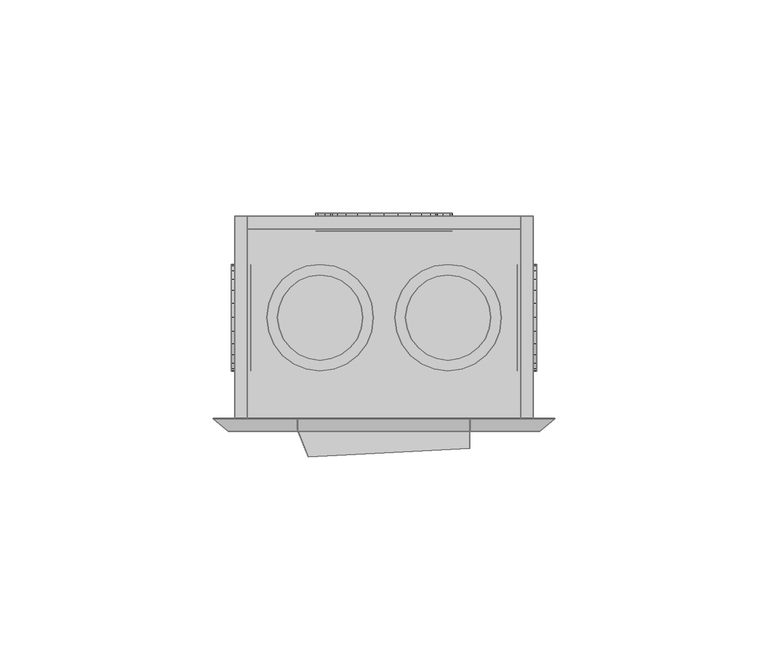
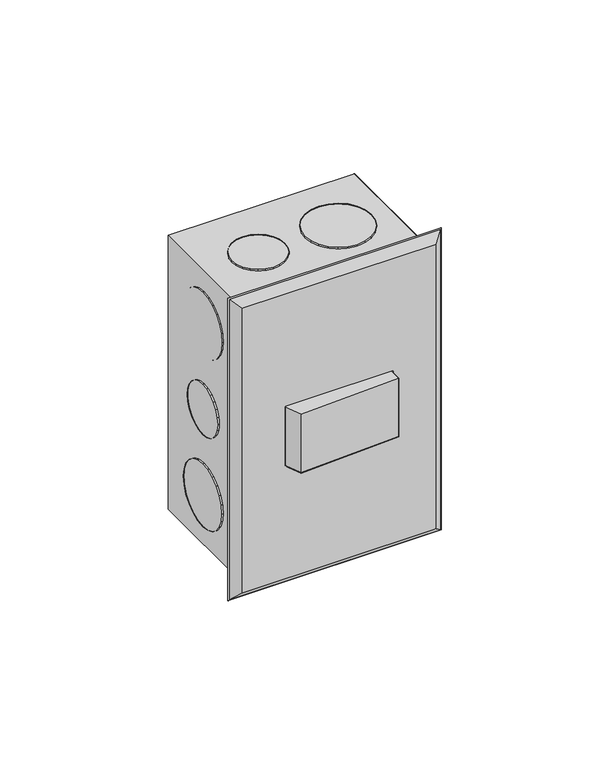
"""IFC4 building model written with IfcOpenShell, lengths in millimetres: proxy geometry,  210751 :  210751."""

from ifc_helpers import new_model, si_unit, origin, place, context, project, spatial, triangles, source, transform, mapped, element, save


def generic_models_49b2df1a(model_context):
    return source(origin(), model_context, "Body", "Tessellation", [
        triangles([(9911.6694214, 27548.6998535, 1254.3000378), (9908.6696045, 27548.6998535, 1148.7000154), (9911.6694214, 27548.6998535, 1145.6999805), (9908.6696045, 27548.6998535, 1251.2999302), (9841.6702057, 27548.6998535, 1254.3000378), (9844.6700226, 27548.6998535, 1251.2999302), (9841.6702057, 27548.6998535, 1145.6999805), (9844.6700226, 27548.6998535, 1148.7000154), (9908.6696045, 27596.1992798, 1251.2999302), (9908.6696045, 27596.1992798, 1148.7000154), (9841.6702057, 27596.1992798, 1254.3000378), (9841.6702057, 27596.1992798, 1145.6999805), (9844.6700226, 27596.1992798, 1251.2999302), (9911.6694214, 27596.1992798, 1145.6999805), (9844.6700226, 27596.1992798, 1148.7000154), (9911.6694214, 27596.1992798, 1254.3000378), (9908.6696045, 27593.1994629, 1251.2999302), (9844.6700226, 27593.1994629, 1148.7000154), (9908.6696045, 27593.1994629, 1148.7000154), (9844.6700226, 27593.1994629, 1251.2999302), (9890.5695465, 27592.6994934, 1191.9999887), (9884.6699066, 27592.6994934, 1186.0999855), (9887.9697052, 27592.6994934, 1188.6999722), (9892.1694489, 27592.6994934, 1195.8999687), (9880.8701385, 27592.6994934, 1184.5000105), (9892.6705811, 27592.6994934, 1200.0000092), (9876.6703949, 27592.6994934, 1183.9999683), (9892.1694489, 27592.6994934, 1204.0999769), (9872.5694824, 27592.6994934, 1184.5000105), (9890.5695465, 27592.6994934, 1208.0000296), (9868.6697205, 27592.6994934, 1186.0999855), (9887.9697052, 27592.6994934, 1211.2999735), (9865.3699219, 27592.6994934, 1188.6999722), (9884.6699066, 27592.6994934, 1213.9000328), (9862.8700745, 27592.6994934, 1191.9999887), (9880.8701385, 27592.6994934, 1215.5000078), (9861.2701721, 27592.6994934, 1195.8999687), (9876.6703949, 27592.6994934, 1215.9999773), (9860.6702087, 27592.6994934, 1200.0000092), (9872.5694824, 27592.6994934, 1215.5000078), (9861.2701721, 27592.6994934, 1204.0999769), (9868.6697205, 27592.6994934, 1213.9000328), (9862.8700745, 27592.6994934, 1208.0000296), (9865.3699219, 27592.6994934, 1211.2999735), (9872.5694824, 27596.8992371, 1184.5000105), (9876.6703949, 27596.8992371, 1183.9999683), (9880.8701385, 27596.8992371, 1184.5000105), (9884.6699066, 27596.8992371, 1186.0999855), (9887.9697052, 27596.8992371, 1188.6999722), (9890.5695465, 27596.8992371, 1191.9999887), (9892.1694489, 27596.8992371, 1195.8999687), (9892.6705811, 27596.8992371, 1200.0000092), (9892.1694489, 27596.8992371, 1204.0999769), (9890.5695465, 27596.8992371, 1208.0000296), (9887.9697052, 27596.8992371, 1211.2999735), (9884.6699066, 27596.8992371, 1213.9000328), (9880.8701385, 27596.8992371, 1215.5000078), (9876.6703949, 27596.8992371, 1215.9999773), (9872.5694824, 27596.8992371, 1215.5000078), (9868.6697205, 27596.8992371, 1213.9000328), (9865.3699219, 27596.8992371, 1211.2999735), (9862.8700745, 27596.8992371, 1208.0000296), (9861.2701721, 27596.8992371, 1204.0999769), (9860.6702087, 27596.8992371, 1200.0000092), (9861.2701721, 27596.8992371, 1195.8999687), (9862.8700745, 27596.8992371, 1191.9999887), (9865.3699219, 27596.8992371, 1188.6999722), (9868.6697205, 27596.8992371, 1186.0999855), (9887.5697296, 27592.6994934, 1227.8000565), (9882.9700104, 27592.6994934, 1223.2000465), (9885.5698517, 27592.6994934, 1225.2000698), (9888.7696564, 27592.6994934, 1230.8000187), (9879.9701935, 27592.6994934, 1221.8999805), (9889.169632, 27592.6994934, 1233.9999687), (9876.6703949, 27592.6994934, 1221.500005), (9888.7696564, 27592.6994934, 1237.2000641), (9873.4694275, 27592.6994934, 1221.8999805), (9887.5697296, 27592.6994934, 1240.3000202), (9870.4696106, 27592.6994934, 1223.2000465), (9885.5698517, 27592.6994934, 1242.800013), (9867.8697693, 27592.6994934, 1225.2000698), (9865.8698914, 27592.6994934, 1227.8000565), (9882.9700104, 27592.6994934, 1244.8000362), (9879.9701935, 27592.6994934, 1246.0999569), (9864.6699646, 27592.6994934, 1230.8000187), (9876.6703949, 27592.6994934, 1246.4999325), (9864.1699951, 27592.6994934, 1233.9999687), (9873.4694275, 27592.6994934, 1246.0999569), (9864.6699646, 27592.6994934, 1237.2000641), (9865.8698914, 27592.6994934, 1240.3000202), (9870.4696106, 27592.6994934, 1244.8000362), (9867.8697693, 27592.6994934, 1242.800013), (9864.6699646, 27596.8992371, 1230.8000187), (9865.8698914, 27596.8992371, 1227.8000565), (9867.8697693, 27596.8992371, 1225.2000698), (9870.4696106, 27596.8992371, 1223.2000465), (9873.4694275, 27596.8992371, 1221.8999805), (9876.6703949, 27596.8992371, 1221.500005), (9879.9701935, 27596.8992371, 1221.8999805), (9882.9700104, 27596.8992371, 1223.2000465), (9885.5698517, 27596.8992371, 1225.2000698), (9887.5697296, 27596.8992371, 1227.8000565), (9888.7696564, 27596.8992371, 1230.8000187), (9889.169632, 27596.8992371, 1233.9999687), (9888.7696564, 27596.8992371, 1237.2000641), (9887.5697296, 27596.8992371, 1240.3000202), (9885.5698517, 27596.8992371, 1242.800013), (9882.9700104, 27596.8992371, 1244.8000362), (9879.9701935, 27596.8992371, 1246.0999569), (9876.6703949, 27596.8992371, 1246.4999325), (9873.4694275, 27596.8992371, 1246.0999569), (9870.4696106, 27596.8992371, 1244.8000362), (9867.8697693, 27596.8992371, 1242.800013), (9865.8698914, 27596.8992371, 1240.3000202), (9864.6699646, 27596.8992371, 1237.2000641), (9864.1699951, 27596.8992371, 1233.9999687), (9882.9700104, 27596.8992371, 1155.1999821), (9887.5697296, 27596.8992371, 1159.6999981), (9885.5698517, 27596.8992371, 1157.2000053), (9879.9701935, 27596.8992371, 1153.8999887), (9888.7696564, 27596.8992371, 1162.8000269), (9876.6703949, 27596.8992371, 1153.5000132), (9889.169632, 27596.8992371, 1165.9999769), (9873.4694275, 27596.8992371, 1153.8999887), (9888.7696564, 27596.8992371, 1169.1999996), (9870.4696106, 27596.8992371, 1155.1999821), (9887.5697296, 27596.8992371, 1172.2000345), (9867.8697693, 27596.8992371, 1157.2000053), (9885.5698517, 27596.8992371, 1174.8000212), (9865.8698914, 27596.8992371, 1159.6999981), (9882.9700104, 27596.8992371, 1176.7999718), (9864.6699646, 27596.8992371, 1162.8000269), (9879.9701935, 27596.8992371, 1178.0999651), (9876.6703949, 27596.8992371, 1178.5000134), (9864.1699951, 27596.8992371, 1165.9999769), (9864.6699646, 27596.8992371, 1169.1999996), (9873.4694275, 27596.8992371, 1178.0999651), (9865.8698914, 27596.8992371, 1172.2000345), (9870.4696106, 27596.8992371, 1176.7999718), (9867.8697693, 27596.8992371, 1174.8000212), (9879.9701935, 27592.6994934, 1178.0999651), (9876.6703949, 27592.6994934, 1178.5000134), (9882.9700104, 27592.6994934, 1176.7999718), (9885.5698517, 27592.6994934, 1174.8000212), (9887.5697296, 27592.6994934, 1172.2000345), (9888.7696564, 27592.6994934, 1169.1999996), (9889.169632, 27592.6994934, 1165.9999769), (9888.7696564, 27592.6994934, 1162.8000269), (9887.5697296, 27592.6994934, 1159.6999981), (9885.5698517, 27592.6994934, 1157.2000053), (9882.9700104, 27592.6994934, 1155.1999821), (9879.9701935, 27592.6994934, 1153.8999887), (9876.6703949, 27592.6994934, 1153.5000132), (9873.4694275, 27592.6994934, 1153.8999887), (9870.4696106, 27592.6994934, 1155.1999821), (9867.8697693, 27592.6994934, 1157.2000053), (9865.8698914, 27592.6994934, 1159.6999981), (9864.6699646, 27592.6994934, 1162.8000269), (9864.1699951, 27592.6994934, 1165.9999769), (9864.6699646, 27592.6994934, 1169.1999996), (9865.8698914, 27592.6994934, 1172.2000345), (9867.8697693, 27592.6994934, 1174.8000212), (9870.4696106, 27592.6994934, 1176.7999718), (9873.4694275, 27592.6994934, 1178.0999651), (9907.8696533, 27577.4004272, 1191.3000315), (9907.8696533, 27581.1002014, 1195.0000237), (9907.8696533, 27579.5002991, 1192.9000065), (9907.8696533, 27582.1001404, 1197.4000225), (9907.8696533, 27575.0005737, 1190.3000198), (9907.8696533, 27582.4001221, 1200.0000092), (9907.8696533, 27572.4007324, 1189.9999655), (9907.8696533, 27569.900885, 1190.3000198), (9907.8696533, 27582.1001404, 1202.5999958), (9907.8696533, 27581.1002014, 1204.9999947), (9907.8696533, 27567.4010376, 1191.3000315), (9907.8696533, 27579.5002991, 1207.1000118), (9907.8696533, 27565.4011597, 1192.9000065), (9907.8696533, 27563.7989319, 1195.0000237), (9907.8696533, 27577.4004272, 1208.6999868), (9907.8696533, 27562.7989929, 1197.4000225), (9907.8696533, 27575.0005737, 1209.6999985), (9907.8696533, 27562.3990173, 1200.0000092), (9907.8696533, 27572.4007324, 1209.9999802), (9907.8696533, 27562.7989929, 1202.5999958), (9907.8696533, 27569.900885, 1209.6999985), (9907.8696533, 27567.4010376, 1208.6999868), (9907.8696533, 27563.7989319, 1204.9999947), (9907.8696533, 27565.4011597, 1207.1000118), (9912.4705353, 27572.4007324, 1189.9999655), (9912.4705353, 27575.0005737, 1190.3000198), (9912.4705353, 27569.900885, 1190.3000198), (9912.4705353, 27567.4010376, 1191.3000315), (9912.4705353, 27565.4011597, 1192.9000065), (9912.4705353, 27563.7989319, 1195.0000237), (9912.4705353, 27562.7989929, 1197.4000225), (9912.4705353, 27562.3990173, 1200.0000092), (9912.4705353, 27562.7989929, 1202.5999958), (9912.4705353, 27563.7989319, 1204.9999947), (9912.4705353, 27565.4011597, 1207.1000118), (9912.4705353, 27567.4010376, 1208.6999868), (9912.4705353, 27569.900885, 1209.6999985), (9912.4705353, 27572.4007324, 1209.9999802), (9912.4705353, 27575.0005737, 1209.6999985), (9912.4705353, 27577.4004272, 1208.6999868), (9912.4705353, 27579.5002991, 1207.1000118), (9912.4705353, 27581.1002014, 1204.9999947), (9912.4705353, 27582.1001404, 1202.5999958), (9912.4705353, 27582.4001221, 1200.0000092), (9912.4705353, 27582.1001404, 1197.4000225), (9912.4705353, 27581.1002014, 1195.0000237), (9912.4705353, 27579.5002991, 1192.9000065), (9912.4705353, 27577.4004272, 1191.3000315), (9907.8696533, 27578.7003479, 1223.2000465), (9907.8696533, 27583.3000671, 1227.8000565), (9907.8696533, 27581.3001892, 1225.2000698), (9907.8696533, 27575.700531, 1221.8999805), (9907.8696533, 27584.4999939, 1230.8000187), (9907.8696533, 27584.8999695, 1233.9999687), (9907.8696533, 27572.4007324, 1221.500005), (9907.8696533, 27569.2009277, 1221.8999805), (9907.8696533, 27584.4999939, 1237.2000641), (9907.8696533, 27583.3000671, 1240.3000202), (9907.8696533, 27566.2011108, 1223.2000465), (9907.8696533, 27563.5989441, 1225.2000698), (9907.8696533, 27581.3001892, 1242.800013), (9907.8696533, 27561.5990662, 1227.8000565), (9907.8696533, 27578.7003479, 1244.8000362), (9907.8696533, 27560.3991394, 1230.8000187), (9907.8696533, 27575.700531, 1246.0999569), (9907.8696533, 27559.8991699, 1233.9999687), (9907.8696533, 27572.4007324, 1246.4999325), (9907.8696533, 27560.3991394, 1237.2000641), (9907.8696533, 27569.2009277, 1246.0999569), (9907.8696533, 27561.5990662, 1240.3000202), (9907.8696533, 27566.2011108, 1244.8000362), (9907.8696533, 27563.5989441, 1242.800013), (9912.4705353, 27572.4007324, 1221.500005), (9912.4705353, 27575.700531, 1221.8999805), (9912.4705353, 27569.2009277, 1221.8999805), (9912.4705353, 27566.2011108, 1223.2000465), (9912.4705353, 27563.5989441, 1225.2000698), (9912.4705353, 27561.5990662, 1227.8000565), (9912.4705353, 27560.3991394, 1230.8000187), (9912.4705353, 27559.8991699, 1233.9999687), (9912.4705353, 27560.3991394, 1237.2000641), (9912.4705353, 27561.5990662, 1240.3000202), (9912.4705353, 27563.5989441, 1242.800013), (9912.4705353, 27566.2011108, 1244.8000362), (9912.4705353, 27569.2009277, 1246.0999569), (9912.4705353, 27572.4007324, 1246.4999325), (9912.4705353, 27575.700531, 1246.0999569), (9912.4705353, 27578.7003479, 1244.8000362), (9912.4705353, 27581.3001892, 1242.800013), (9912.4705353, 27583.3000671, 1240.3000202), (9912.4705353, 27584.4999939, 1237.2000641), (9912.4705353, 27584.8999695, 1233.9999687), (9912.4705353, 27584.4999939, 1230.8000187), (9912.4705353, 27583.3000671, 1227.8000565), (9912.4705353, 27581.3001892, 1225.2000698), (9912.4705353, 27578.7003479, 1223.2000465), (9912.4705353, 27583.3000671, 1159.6999981), (9912.4705353, 27578.7003479, 1155.1999821), (9912.4705353, 27581.3001892, 1157.2000053), (9912.4705353, 27584.4999939, 1162.8000269), (9912.4705353, 27575.700531, 1153.8999887), (9912.4705353, 27584.8999695, 1165.9999769), (9912.4705353, 27572.4007324, 1153.5000132), (9912.4705353, 27584.4999939, 1169.1999996), (9912.4705353, 27569.2009277, 1153.8999887), (9912.4705353, 27583.3000671, 1172.2000345), (9912.4705353, 27566.2011108, 1155.1999821), (9912.4705353, 27581.3001892, 1174.8000212), (9912.4705353, 27563.5989441, 1157.2000053), (9912.4705353, 27578.7003479, 1176.7999718), (9912.4705353, 27561.5990662, 1159.6999981), (9912.4705353, 27575.700531, 1178.0999651), (9912.4705353, 27560.3991394, 1162.8000269), (9912.4705353, 27572.4007324, 1178.5000134), (9912.4705353, 27559.8991699, 1165.9999769), (9912.4705353, 27569.2009277, 1178.0999651), (9912.4705353, 27560.3991394, 1169.1999996), (9912.4705353, 27566.2011108, 1176.7999718), (9912.4705353, 27561.5990662, 1172.2000345), (9912.4705353, 27563.5989441, 1174.8000212), (9907.8696533, 27575.700531, 1178.0999651), (9907.8696533, 27572.4007324, 1178.5000134), (9907.8696533, 27569.2009277, 1178.0999651), (9907.8696533, 27566.2011108, 1176.7999718), (9907.8696533, 27563.5989441, 1174.8000212), (9907.8696533, 27561.5990662, 1172.2000345), (9907.8696533, 27560.3991394, 1169.1999996), (9907.8696533, 27559.8991699, 1165.9999769), (9907.8696533, 27560.3991394, 1162.8000269), (9907.8696533, 27561.5990662, 1159.6999981), (9907.8696533, 27563.5989441, 1157.2000053), (9907.8696533, 27566.2011108, 1155.1999821), (9907.8696533, 27569.2009277, 1153.8999887), (9907.8696533, 27572.4007324, 1153.5000132), (9907.8696533, 27575.700531, 1153.8999887), (9907.8696533, 27578.7003479, 1155.1999821), (9907.8696533, 27581.3001892, 1157.2000053), (9907.8696533, 27583.3000671, 1159.6999981), (9907.8696533, 27584.4999939, 1162.8000269), (9907.8696533, 27584.8999695, 1165.9999769), (9907.8696533, 27584.4999939, 1169.1999996), (9907.8696533, 27583.3000671, 1172.2000345), (9907.8696533, 27581.3001892, 1174.8000212), (9907.8696533, 27578.7003479, 1176.7999718), (9845.4699738, 27581.1002014, 1195.0000237), (9845.4699738, 27577.4004272, 1191.3000315), (9845.4699738, 27579.5002991, 1192.9000065), (9845.4699738, 27582.1001404, 1197.4000225), (9845.4699738, 27575.0005737, 1190.3000198), (9845.4699738, 27582.4001221, 1200.0000092), (9845.4699738, 27572.4007324, 1189.9999655), (9845.4699738, 27582.1001404, 1202.5999958), (9845.4699738, 27569.900885, 1190.3000198), (9845.4699738, 27581.1002014, 1204.9999947), (9845.4699738, 27567.4010376, 1191.3000315), (9845.4699738, 27579.5002991, 1207.1000118), (9845.4699738, 27565.4011597, 1192.9000065), (9845.4699738, 27577.4004272, 1208.6999868), (9845.4699738, 27563.7989319, 1195.0000237), (9845.4699738, 27575.0005737, 1209.6999985), (9845.4699738, 27562.7989929, 1197.4000225), (9845.4699738, 27562.3990173, 1200.0000092), (9845.4699738, 27572.4007324, 1209.9999802), (9845.4699738, 27569.900885, 1209.6999985), (9845.4699738, 27562.7989929, 1202.5999958), (9845.4699738, 27567.4010376, 1208.6999868), (9845.4699738, 27563.7989319, 1204.9999947), (9845.4699738, 27565.4011597, 1207.1000118), (9840.8702545, 27575.0005737, 1209.6999985), (9840.8702545, 27572.4007324, 1209.9999802), (9840.8702545, 27569.900885, 1209.6999985), (9840.8702545, 27567.4010376, 1208.6999868), (9840.8702545, 27565.4011597, 1207.1000118), (9840.8702545, 27563.7989319, 1204.9999947), (9840.8702545, 27562.7989929, 1202.5999958), (9840.8702545, 27562.3990173, 1200.0000092), (9840.8702545, 27562.7989929, 1197.4000225), (9840.8702545, 27563.7989319, 1195.0000237), (9840.8702545, 27565.4011597, 1192.9000065), (9840.8702545, 27567.4010376, 1191.3000315), (9840.8702545, 27569.900885, 1190.3000198), (9840.8702545, 27572.4007324, 1189.9999655), (9840.8702545, 27575.0005737, 1190.3000198), (9840.8702545, 27577.4004272, 1191.3000315), (9840.8702545, 27579.5002991, 1192.9000065), (9840.8702545, 27581.1002014, 1195.0000237), (9840.8702545, 27582.1001404, 1197.4000225), (9840.8702545, 27582.4001221, 1200.0000092), (9840.8702545, 27582.1001404, 1202.5999958), (9840.8702545, 27581.1002014, 1204.9999947), (9840.8702545, 27579.5002991, 1207.1000118), (9840.8702545, 27577.4004272, 1208.6999868), (9845.4699738, 27583.3000671, 1159.6999981), (9845.4699738, 27578.7003479, 1155.1999821), (9845.4699738, 27581.3001892, 1157.2000053), (9845.4699738, 27584.4999939, 1162.8000269), (9845.4699738, 27575.700531, 1153.8999887), (9845.4699738, 27584.8999695, 1165.9999769), (9845.4699738, 27572.4007324, 1153.5000132), (9845.4699738, 27584.4999939, 1169.1999996), (9845.4699738, 27569.2009277, 1153.8999887), (9845.4699738, 27583.3000671, 1172.2000345), (9845.4699738, 27566.2011108, 1155.1999821), (9845.4699738, 27581.3001892, 1174.8000212), (9845.4699738, 27563.5989441, 1157.2000053), (9845.4699738, 27578.7003479, 1176.7999718), (9845.4699738, 27561.5990662, 1159.6999981), (9845.4699738, 27575.700531, 1178.0999651), (9845.4699738, 27560.3991394, 1162.8000269), (9845.4699738, 27572.4007324, 1178.5000134), (9845.4699738, 27559.8991699, 1165.9999769), (9845.4699738, 27569.2009277, 1178.0999651), (9845.4699738, 27560.3991394, 1169.1999996), (9845.4699738, 27566.2011108, 1176.7999718), (9845.4699738, 27561.5990662, 1172.2000345), (9845.4699738, 27563.5989441, 1174.8000212), (9840.8702545, 27575.700531, 1178.0999651), (9840.8702545, 27572.4007324, 1178.5000134), (9840.8702545, 27569.2009277, 1178.0999651), (9840.8702545, 27566.2011108, 1176.7999718), (9840.8702545, 27563.5989441, 1174.8000212), (9840.8702545, 27561.5990662, 1172.2000345), (9840.8702545, 27560.3991394, 1169.1999996), (9840.8702545, 27559.8991699, 1165.9999769), (9840.8702545, 27560.3991394, 1162.8000269), (9840.8702545, 27561.5990662, 1159.6999981), (9840.8702545, 27563.5989441, 1157.2000053), (9840.8702545, 27566.2011108, 1155.1999821), (9840.8702545, 27569.2009277, 1153.8999887), (9840.8702545, 27572.4007324, 1153.5000132), (9840.8702545, 27575.700531, 1153.8999887), (9840.8702545, 27578.7003479, 1155.1999821), (9840.8702545, 27581.3001892, 1157.2000053), (9840.8702545, 27583.3000671, 1159.6999981), (9840.8702545, 27584.4999939, 1162.8000269), (9840.8702545, 27584.8999695, 1165.9999769), (9840.8702545, 27584.4999939, 1169.1999996), (9840.8702545, 27583.3000671, 1172.2000345), (9840.8702545, 27581.3001892, 1174.8000212), (9840.8702545, 27578.7003479, 1176.7999718), (9840.8702545, 27578.7003479, 1223.2000465), (9840.8702545, 27583.3000671, 1227.8000565), (9840.8702545, 27581.3001892, 1225.2000698), (9840.8702545, 27575.700531, 1221.8999805), (9840.8702545, 27584.4999939, 1230.8000187), (9840.8702545, 27584.8999695, 1233.9999687), (9840.8702545, 27572.4007324, 1221.500005), (9840.8702545, 27569.2009277, 1221.8999805), (9840.8702545, 27584.4999939, 1237.2000641), (9840.8702545, 27583.3000671, 1240.3000202), (9840.8702545, 27566.2011108, 1223.2000465), (9840.8702545, 27563.5989441, 1225.2000698), (9840.8702545, 27581.3001892, 1242.800013), (9840.8702545, 27561.5990662, 1227.8000565), (9840.8702545, 27578.7003479, 1244.8000362), (9840.8702545, 27560.3991394, 1230.8000187), (9840.8702545, 27575.700531, 1246.0999569), (9840.8702545, 27559.8991699, 1233.9999687), (9840.8702545, 27572.4007324, 1246.4999325), (9840.8702545, 27560.3991394, 1237.2000641), (9840.8702545, 27569.2009277, 1246.0999569), (9840.8702545, 27561.5990662, 1240.3000202), (9840.8702545, 27566.2011108, 1244.8000362), (9840.8702545, 27563.5989441, 1242.800013), (9845.4699738, 27572.4007324, 1221.500005), (9845.4699738, 27575.700531, 1221.8999805), (9845.4699738, 27569.2009277, 1221.8999805), (9845.4699738, 27566.2011108, 1223.2000465), (9845.4699738, 27563.5989441, 1225.2000698), (9845.4699738, 27561.5990662, 1227.8000565), (9845.4699738, 27560.3991394, 1230.8000187), (9845.4699738, 27559.8991699, 1233.9999687), (9845.4699738, 27560.3991394, 1237.2000641), (9845.4699738, 27561.5990662, 1240.3000202), (9845.4699738, 27563.5989441, 1242.800013), (9845.4699738, 27566.2011108, 1244.8000362), (9845.4699738, 27569.2009277, 1246.0999569), (9845.4699738, 27572.4007324, 1246.4999325), (9845.4699738, 27575.700531, 1246.0999569), (9845.4699738, 27578.7003479, 1244.8000362), (9845.4699738, 27581.3001892, 1242.800013), (9845.4699738, 27583.3000671, 1240.3000202), (9845.4699738, 27584.4999939, 1237.2000641), (9845.4699738, 27584.8999695, 1233.9999687), (9845.4699738, 27584.4999939, 1230.8000187), (9845.4699738, 27583.3000671, 1227.8000565), (9845.4699738, 27581.3001892, 1225.2000698), (9845.4699738, 27578.7003479, 1223.2000465), (9902.5699768, 27578.7003479, 1250.9999485), (9897.9702576, 27583.3000671, 1250.9999485), (9900.5700989, 27581.3001892, 1250.9999485), (9903.7699036, 27575.700531, 1250.9999485), (9894.9704407, 27584.4999939, 1250.9999485), (9891.6694794, 27584.8999695, 1250.9999485), (9904.1698792, 27572.4007324, 1250.9999485), (9903.7699036, 27569.2009277, 1250.9999485), (9888.4696747, 27584.4999939, 1250.9999485), (9885.4698578, 27583.3000671, 1250.9999485), (9902.5699768, 27566.2011108, 1250.9999485), (9900.5700989, 27563.5989441, 1250.9999485), (9882.8700165, 27581.3001892, 1250.9999485), (9880.8701385, 27578.7003479, 1250.9999485), (9897.9702576, 27561.5990662, 1250.9999485), (9894.9704407, 27560.3991394, 1250.9999485), (9879.6702118, 27575.700531, 1250.9999485), (9891.6694794, 27559.8991699, 1250.9999485), (9879.1702423, 27572.4007324, 1250.9999485), (9888.4696747, 27560.3991394, 1250.9999485), (9879.6702118, 27569.2009277, 1250.9999485), (9880.8701385, 27566.2011108, 1250.9999485), (9885.4698578, 27561.5990662, 1250.9999485), (9882.8700165, 27563.5989441, 1250.9999485), (9891.6694794, 27584.8999695, 1255.1999828), (9888.4696747, 27584.4999939, 1255.1999828), (9894.9704407, 27584.4999939, 1255.1999828), (9897.9702576, 27583.3000671, 1255.1999828), (9900.5700989, 27581.3001892, 1255.1999828), (9902.5699768, 27578.7003479, 1255.1999828), (9903.7699036, 27575.700531, 1255.1999828), (9904.1698792, 27572.4007324, 1255.1999828), (9903.7699036, 27569.2009277, 1255.1999828), (9902.5699768, 27566.2011108, 1255.1999828), (9900.5700989, 27563.5989441, 1255.1999828), (9897.9702576, 27561.5990662, 1255.1999828), (9894.9704407, 27560.3991394, 1255.1999828), (9891.6694794, 27559.8991699, 1255.1999828), (9888.4696747, 27560.3991394, 1255.1999828), (9885.4698578, 27561.5990662, 1255.1999828), (9882.8700165, 27563.5989441, 1255.1999828), (9880.8701385, 27566.2011108, 1255.1999828), (9879.6702118, 27569.2009277, 1255.1999828), (9879.1702423, 27572.4007324, 1255.1999828), (9879.6702118, 27575.700531, 1255.1999828), (9880.8701385, 27578.7003479, 1255.1999828), (9882.8700165, 27581.3001892, 1255.1999828), (9885.4698578, 27583.3000671, 1255.1999828), (9870.3696167, 27577.4004272, 1250.9999485), (9866.6698425, 27581.1002014, 1250.9999485), (9868.7697144, 27579.5002991, 1250.9999485), (9864.269989, 27582.1001404, 1250.9999485), (9871.3695557, 27575.0005737, 1250.9999485), (9861.6701477, 27582.4001221, 1250.9999485), (9871.6695374, 27572.4007324, 1250.9999485), (9871.3695557, 27569.900885, 1250.9999485), (9859.0703064, 27582.1001404, 1250.9999485), (9856.6704529, 27581.1002014, 1250.9999485), (9870.3696167, 27567.4010376, 1250.9999485), (9854.670575, 27579.5002991, 1250.9999485), (9868.7697144, 27565.4011597, 1250.9999485), (9866.6698425, 27563.7989319, 1250.9999485), (9853.0695099, 27577.4004272, 1250.9999485), (9852.0695709, 27575.0005737, 1250.9999485), (9864.269989, 27562.7989929, 1250.9999485), (9861.6701477, 27562.3990173, 1250.9999485), (9851.6695953, 27572.4007324, 1250.9999485), (9859.0703064, 27562.7989929, 1250.9999485), (9852.0695709, 27569.900885, 1250.9999485), (9856.6704529, 27563.7989319, 1250.9999485), (9853.0695099, 27567.4010376, 1250.9999485), (9854.670575, 27565.4011597, 1250.9999485), (9859.0703064, 27582.1001404, 1255.1999828), (9856.6704529, 27581.1002014, 1255.1999828), (9861.6701477, 27582.4001221, 1255.1999828), (9864.269989, 27582.1001404, 1255.1999828), (9866.6698425, 27581.1002014, 1255.1999828), (9868.7697144, 27579.5002991, 1255.1999828), (9870.3696167, 27577.4004272, 1255.1999828), (9871.3695557, 27575.0005737, 1255.1999828), (9871.6695374, 27572.4007324, 1255.1999828), (9871.3695557, 27569.900885, 1255.1999828), (9870.3696167, 27567.4010376, 1255.1999828), (9868.7697144, 27565.4011597, 1255.1999828), (9866.6698425, 27563.7989319, 1255.1999828), (9864.269989, 27562.7989929, 1255.1999828), (9861.6701477, 27562.3990173, 1255.1999828), (9859.0703064, 27562.7989929, 1255.1999828), (9856.6704529, 27563.7989319, 1255.1999828), (9854.670575, 27565.4011597, 1255.1999828), (9853.0695099, 27567.4010376, 1255.1999828), (9852.0695709, 27569.900885, 1255.1999828), (9851.6695953, 27572.4007324, 1255.1999828), (9852.0695709, 27575.0005737, 1255.1999828), (9853.0695099, 27577.4004272, 1255.1999828), (9854.670575, 27579.5002991, 1255.1999828), (9900.3701111, 27577.4004272, 1144.8000355), (9896.6703369, 27581.1002014, 1144.8000355), (9898.7702087, 27579.5002991, 1144.8000355), (9894.2704834, 27582.1001404, 1144.8000355), (9901.37005, 27575.0005737, 1144.8000355), (9891.6694794, 27582.4001221, 1144.8000355), (9901.6700317, 27572.4007324, 1144.8000355), (9901.37005, 27569.900885, 1144.8000355), (9889.0696381, 27582.1001404, 1144.8000355), (9886.6697845, 27581.1002014, 1144.8000355), (9900.3701111, 27567.4010376, 1144.8000355), (9884.6699066, 27579.5002991, 1144.8000355), (9898.7702087, 27565.4011597, 1144.8000355), (9896.6703369, 27563.7989319, 1144.8000355), (9883.0700043, 27577.4004272, 1144.8000355), (9882.0700653, 27575.0005737, 1144.8000355), (9894.2704834, 27562.7989929, 1144.8000355), (9891.6694794, 27562.3990173, 1144.8000355), (9881.6700897, 27572.4007324, 1144.8000355), (9889.0696381, 27562.7989929, 1144.8000355), (9882.0700653, 27569.900885, 1144.8000355), (9886.6697845, 27563.7989319, 1144.8000355), (9883.0700043, 27567.4010376, 1144.8000355), (9884.6699066, 27565.4011597, 1144.8000355), (9894.2704834, 27582.1001404, 1149.099991), (9891.6694794, 27582.4001221, 1149.099991), (9896.6703369, 27581.1002014, 1149.099991), (9898.7702087, 27579.5002991, 1149.099991), (9900.3701111, 27577.4004272, 1149.099991), (9901.37005, 27575.0005737, 1149.099991), (9901.6700317, 27572.4007324, 1149.099991), (9901.37005, 27569.900885, 1149.099991), (9900.3701111, 27567.4010376, 1149.099991), (9898.7702087, 27565.4011597, 1149.099991), (9896.6703369, 27563.7989319, 1149.099991), (9894.2704834, 27562.7989929, 1149.099991), (9891.6694794, 27562.3990173, 1149.099991), (9889.0696381, 27562.7989929, 1149.099991), (9886.6697845, 27563.7989319, 1149.099991), (9884.6699066, 27565.4011597, 1149.099991), (9883.0700043, 27567.4010376, 1149.099991), (9882.0700653, 27569.900885, 1149.099991), (9881.6700897, 27572.4007324, 1149.099991), (9882.0700653, 27575.0005737, 1149.099991), (9883.0700043, 27577.4004272, 1149.099991), (9884.6699066, 27579.5002991, 1149.099991), (9886.6697845, 27581.1002014, 1149.099991), (9889.0696381, 27582.1001404, 1149.099991), (9872.5694824, 27578.7003479, 1144.8000355), (9867.9697632, 27583.3000671, 1144.8000355), (9870.5696045, 27581.3001892, 1144.8000355), (9873.7705719, 27575.700531, 1144.8000355), (9864.9699463, 27584.4999939, 1144.8000355), (9861.6701477, 27584.8999695, 1144.8000355), (9874.1705475, 27572.4007324, 1144.8000355), (9873.7705719, 27569.2009277, 1144.8000355), (9858.470343, 27584.4999939, 1144.8000355), (9855.4705261, 27583.3000671, 1144.8000355), (9872.5694824, 27566.2011108, 1144.8000355), (9870.5696045, 27563.5989441, 1144.8000355), (9852.8695221, 27581.3001892, 1144.8000355), (9850.8696442, 27578.7003479, 1144.8000355), (9867.9697632, 27561.5990662, 1144.8000355), (9864.9699463, 27560.3991394, 1144.8000355), (9849.6697174, 27575.700531, 1144.8000355), (9861.6701477, 27559.8991699, 1144.8000355), (9849.1697479, 27572.4007324, 1144.8000355), (9858.470343, 27560.3991394, 1144.8000355), (9849.6697174, 27569.2009277, 1144.8000355), (9850.8696442, 27566.2011108, 1144.8000355), (9855.4705261, 27561.5990662, 1144.8000355), (9852.8695221, 27563.5989441, 1144.8000355), (9858.470343, 27584.4999939, 1149.099991), (9855.4705261, 27583.3000671, 1149.099991), (9861.6701477, 27584.8999695, 1149.099991), (9864.9699463, 27584.4999939, 1149.099991), (9867.9697632, 27583.3000671, 1149.099991), (9870.5696045, 27581.3001892, 1149.099991), (9872.5694824, 27578.7003479, 1149.099991), (9873.7705719, 27575.700531, 1149.099991), (9874.1705475, 27572.4007324, 1149.099991), (9873.7705719, 27569.2009277, 1149.099991), (9872.5694824, 27566.2011108, 1149.099991), (9870.5696045, 27563.5989441, 1149.099991), (9867.9697632, 27561.5990662, 1149.099991), (9864.9699463, 27560.3991394, 1149.099991), (9861.6701477, 27559.8991699, 1149.099991), (9858.470343, 27560.3991394, 1149.099991), (9855.4705261, 27561.5990662, 1149.099991), (9852.8695221, 27563.5989441, 1149.099991), (9850.8696442, 27566.2011108, 1149.099991), (9849.6697174, 27569.2009277, 1149.099991), (9849.1697479, 27572.4007324, 1149.099991), (9849.6697174, 27575.700531, 1149.099991), (9850.8696442, 27578.7003479, 1149.099991), (9852.8695221, 27581.3001892, 1149.099991), (9836.6705109, 27548.6998535, 1139.9999651), (9896.8703247, 27548.6998535, 1188.2999966), (9916.6702789, 27548.6998535, 1139.9999651), (9856.4704651, 27548.6998535, 1188.2999966), (9836.6705109, 27548.6998535, 1259.9999805), (9856.4704651, 27548.6998535, 1211.7000217), (9916.6702789, 27548.6998535, 1259.9999805), (9896.8703247, 27548.6998535, 1211.7000217), (9856.4704651, 27545.7000366, 1188.2999966), (9856.4704651, 27545.7000366, 1211.7000217), (9896.8703247, 27545.7000366, 1188.2999966), (9896.8703247, 27545.7000366, 1211.7000217), (9913.1704926, 27545.7000366, 1143.4999695), (9913.1704926, 27545.7000366, 1256.5000488), (9840.1702972, 27545.7000366, 1143.4999695), (9840.1702972, 27545.7000366, 1256.5000488), (9896.7703308, 27541.7002808, 1188.1000088), (9856.3704712, 27548.6998535, 1188.1000088), (9896.7703308, 27548.6998535, 1188.1000088), (9858.9703125, 27539.8003967, 1188.1000088), (9856.3704712, 27546.2000061, 1188.1000088), (9896.7703308, 27548.6998535, 1211.500034), (9856.3704712, 27548.6998535, 1211.500034), (9896.7703308, 27541.7002808, 1211.500034), (9858.9703125, 27539.8003967, 1211.500034), (9856.3704712, 27546.2000061, 1211.500034)], [[1, 2, 3], [2, 1, 4], [5, 4, 1], [4, 5, 6], [3, 2, 7], [7, 2, 8], [7, 8, 6], [7, 6, 5], [2, 9, 10], [9, 2, 4], [7, 11, 12], [11, 7, 5], [4, 13, 9], [13, 4, 6], [3, 12, 14], [12, 3, 7], [13, 8, 15], [8, 13, 6], [16, 3, 14], [3, 16, 1], [15, 2, 10], [2, 15, 8], [11, 1, 16], [1, 11, 5], [12, 10, 14], [10, 12, 15], [11, 15, 12], [15, 11, 13], [14, 10, 16], [16, 10, 9], [16, 9, 13], [16, 13, 11], [17, 18, 19], [18, 17, 20], [18, 13, 15], [13, 18, 20], [19, 15, 10], [15, 19, 18], [9, 19, 10], [19, 9, 17], [13, 17, 9], [17, 13, 20], [15, 9, 10], [9, 15, 13], [21, 22, 23], [22, 21, 24], [25, 22, 24], [25, 24, 26], [27, 25, 26], [27, 26, 28], [29, 27, 28], [29, 28, 30], [31, 29, 30], [31, 30, 32], [31, 32, 33], [33, 32, 34], [33, 34, 35], [35, 34, 36], [35, 36, 37], [37, 36, 38], [37, 38, 39], [39, 38, 40], [39, 40, 41], [41, 40, 42], [41, 42, 43], [43, 42, 44], [27, 45, 46], [45, 27, 29], [25, 46, 47], [46, 25, 27], [22, 47, 48], [47, 22, 25], [23, 48, 49], [48, 23, 22], [50, 23, 49], [23, 50, 21], [51, 21, 50], [21, 51, 24], [52, 24, 51], [24, 52, 26], [53, 26, 52], [26, 53, 28], [54, 28, 53], [28, 54, 30], [55, 30, 54], [30, 55, 32], [56, 32, 55], [32, 56, 34], [57, 34, 56], [34, 57, 36], [58, 36, 57], [36, 58, 38], [59, 38, 58], [38, 59, 40], [60, 40, 59], [40, 60, 42], [61, 42, 60], [42, 61, 44], [43, 61, 62], [61, 43, 44], [41, 62, 63], [62, 41, 43], [39, 63, 64], [63, 39, 41], [37, 64, 65], [64, 37, 39], [35, 65, 66], [65, 35, 37], [33, 66, 67], [66, 33, 35], [31, 67, 68], [67, 31, 33], [29, 68, 45], [68, 29, 31], [48, 50, 49], [50, 48, 47], [51, 50, 47], [51, 47, 46], [52, 51, 46], [52, 46, 45], [53, 52, 45], [53, 45, 68], [54, 53, 68], [54, 68, 67], [54, 67, 55], [55, 67, 66], [55, 66, 56], [56, 66, 65], [56, 65, 57], [57, 65, 64], [57, 64, 58], [58, 64, 63], [58, 63, 59], [59, 63, 62], [59, 62, 60], [60, 62, 61], [69, 70, 71], [70, 69, 72], [73, 70, 72], [73, 72, 74], [75, 73, 74], [75, 74, 76], [77, 75, 76], [77, 76, 78], [79, 77, 78], [79, 78, 80], [81, 79, 80], [81, 80, 82], [82, 80, 83], [82, 83, 84], [82, 84, 85], [85, 84, 86], [85, 86, 87], [87, 86, 88], [87, 88, 89], [89, 88, 90], [90, 88, 91], [90, 91, 92], [82, 93, 94], [93, 82, 85], [81, 94, 95], [94, 81, 82], [79, 95, 96], [95, 79, 81], [77, 96, 97], [96, 77, 79], [75, 97, 98], [97, 75, 77], [73, 98, 99], [98, 73, 75], [70, 99, 100], [99, 70, 73], [71, 100, 101], [100, 71, 70], [102, 71, 101], [71, 102, 69], [103, 69, 102], [69, 103, 72], [104, 72, 103], [72, 104, 74], [105, 74, 104], [74, 105, 76], [106, 76, 105], [76, 106, 78], [107, 78, 106], [78, 107, 80], [108, 80, 107], [80, 108, 83], [109, 83, 108], [83, 109, 84], [110, 84, 109], [84, 110, 86], [111, 86, 110], [86, 111, 88], [112, 88, 111], [88, 112, 91], [113, 91, 112], [91, 113, 92], [90, 113, 114], [113, 90, 92], [89, 114, 115], [114, 89, 90], [87, 115, 116], [115, 87, 89], [85, 116, 93], [116, 85, 87], [100, 102, 101], [102, 100, 99], [103, 102, 99], [103, 99, 98], [104, 103, 98], [104, 98, 97], [105, 104, 97], [106, 105, 97], [106, 97, 96], [106, 96, 95], [106, 95, 107], [107, 95, 94], [107, 94, 108], [108, 94, 93], [108, 93, 109], [109, 93, 116], [109, 116, 110], [110, 116, 115], [110, 115, 111], [111, 115, 114], [111, 114, 112], [112, 114, 113], [117, 118, 119], [118, 117, 120], [121, 118, 120], [121, 120, 122], [123, 121, 122], [123, 122, 124], [125, 123, 124], [125, 124, 126], [127, 125, 126], [127, 126, 128], [127, 128, 129], [129, 128, 130], [129, 130, 131], [131, 130, 132], [131, 132, 133], [133, 132, 134], [134, 132, 135], [134, 135, 136], [134, 136, 137], [137, 136, 138], [137, 138, 139], [139, 138, 140], [134, 141, 133], [141, 134, 142], [133, 143, 131], [143, 133, 141], [131, 144, 129], [144, 131, 143], [129, 145, 127], [145, 129, 144], [127, 146, 125], [146, 127, 145], [125, 147, 123], [147, 125, 146], [123, 148, 121], [148, 123, 147], [121, 149, 118], [149, 121, 148], [118, 150, 119], [150, 118, 149], [150, 117, 119], [117, 150, 151], [151, 120, 117], [120, 151, 152], [152, 122, 120], [122, 152, 153], [153, 124, 122], [124, 153, 154], [154, 126, 124], [126, 154, 155], [155, 128, 126], [128, 155, 156], [156, 130, 128], [130, 156, 157], [157, 132, 130], [132, 157, 158], [158, 135, 132], [135, 158, 159], [159, 136, 135], [136, 159, 160], [160, 138, 136], [138, 160, 161], [161, 140, 138], [140, 161, 162], [140, 163, 139], [163, 140, 162], [139, 164, 137], [164, 139, 163], [137, 142, 134], [142, 137, 164], [149, 151, 150], [151, 149, 148], [152, 151, 148], [153, 152, 148], [153, 148, 147], [153, 147, 146], [154, 153, 146], [154, 146, 145], [155, 154, 145], [155, 145, 144], [156, 155, 144], [156, 144, 157], [157, 144, 143], [157, 143, 141], [157, 141, 158], [158, 141, 142], [158, 142, 159], [159, 142, 164], [159, 164, 160], [160, 164, 163], [160, 163, 161], [161, 163, 162], [165, 166, 167], [168, 166, 165], [168, 165, 169], [170, 168, 169], [170, 169, 171], [170, 171, 172], [173, 170, 172], [174, 173, 172], [174, 172, 175], [176, 174, 175], [176, 175, 177], [176, 177, 178], [176, 178, 179], [179, 178, 180], [179, 180, 181], [181, 180, 182], [181, 182, 183], [183, 182, 184], [183, 184, 185], [185, 184, 186], [186, 184, 187], [186, 187, 188], [189, 169, 190], [169, 189, 171], [191, 171, 189], [171, 191, 172], [192, 172, 191], [172, 192, 175], [193, 175, 192], [175, 193, 177], [194, 177, 193], [177, 194, 178], [195, 178, 194], [178, 195, 180], [196, 180, 195], [180, 196, 182], [197, 182, 196], [182, 197, 184], [198, 184, 197], [184, 198, 187], [199, 187, 198], [187, 199, 188], [186, 199, 200], [199, 186, 188], [185, 200, 201], [200, 185, 186], [183, 201, 202], [201, 183, 185], [181, 202, 203], [202, 181, 183], [179, 203, 204], [203, 179, 181], [176, 204, 205], [204, 176, 179], [174, 205, 206], [205, 174, 176], [173, 206, 207], [206, 173, 174], [170, 207, 208], [207, 170, 173], [168, 208, 209], [208, 168, 170], [166, 209, 210], [209, 166, 168], [167, 210, 211], [210, 167, 166], [212, 167, 211], [167, 212, 165], [190, 165, 212], [165, 190, 169], [210, 212, 211], [212, 210, 209], [190, 212, 209], [190, 209, 208], [189, 190, 208], [189, 208, 207], [191, 189, 207], [191, 207, 206], [192, 191, 206], [192, 206, 205], [192, 205, 193], [193, 205, 204], [193, 204, 194], [194, 204, 203], [194, 203, 195], [195, 203, 196], [196, 203, 202], [196, 202, 201], [196, 201, 197], [197, 201, 200], [197, 200, 198], [198, 200, 199], [213, 214, 215], [214, 213, 216], [217, 214, 216], [218, 217, 216], [218, 216, 219], [218, 219, 220], [221, 218, 220], [222, 221, 220], [222, 220, 223], [222, 223, 224], [222, 224, 225], [225, 224, 226], [225, 226, 227], [227, 226, 228], [227, 228, 229], [229, 228, 230], [229, 230, 231], [231, 230, 232], [231, 232, 233], [233, 232, 234], [233, 234, 235], [235, 234, 236], [237, 216, 238], [216, 237, 219], [239, 219, 237], [219, 239, 220], [240, 220, 239], [220, 240, 223], [241, 223, 240], [223, 241, 224], [242, 224, 241], [224, 242, 226], [243, 226, 242], [226, 243, 228], [244, 228, 243], [228, 244, 230], [245, 230, 244], [230, 245, 232], [246, 232, 245], [232, 246, 234], [247, 234, 246], [234, 247, 236], [235, 247, 248], [247, 235, 236], [233, 248, 249], [248, 233, 235], [231, 249, 250], [249, 231, 233], [229, 250, 251], [250, 229, 231], [227, 251, 252], [251, 227, 229], [225, 252, 253], [252, 225, 227], [222, 253, 254], [253, 222, 225], [221, 254, 255], [254, 221, 222], [218, 255, 256], [255, 218, 221], [217, 256, 257], [256, 217, 218], [214, 257, 258], [257, 214, 217], [215, 258, 259], [258, 215, 214], [260, 215, 259], [215, 260, 213], [238, 213, 260], [213, 238, 216], [258, 260, 259], [260, 258, 257], [238, 260, 257], [238, 257, 256], [237, 238, 256], [237, 256, 255], [239, 237, 255], [239, 255, 254], [240, 239, 254], [240, 254, 253], [241, 240, 253], [241, 253, 252], [241, 252, 242], [242, 252, 251], [242, 251, 243], [243, 251, 244], [244, 251, 250], [244, 250, 249], [244, 249, 245], [245, 249, 246], [246, 249, 248], [246, 248, 247], [261, 262, 263], [262, 261, 264], [265, 262, 264], [265, 264, 266], [267, 265, 266], [267, 266, 268], [269, 267, 268], [269, 268, 270], [271, 269, 270], [271, 270, 272], [273, 271, 272], [273, 272, 274], [273, 274, 275], [275, 274, 276], [275, 276, 277], [277, 276, 278], [277, 278, 279], [279, 278, 280], [279, 280, 281], [281, 280, 282], [281, 282, 283], [283, 282, 284], [285, 278, 276], [278, 285, 286], [286, 280, 278], [280, 286, 287], [287, 282, 280], [282, 287, 288], [288, 284, 282], [284, 288, 289], [284, 290, 283], [290, 284, 289], [283, 291, 281], [291, 283, 290], [281, 292, 279], [292, 281, 291], [279, 293, 277], [293, 279, 292], [277, 294, 275], [294, 277, 293], [275, 295, 273], [295, 275, 294], [273, 296, 271], [296, 273, 295], [271, 297, 269], [297, 271, 296], [269, 298, 267], [298, 269, 297], [267, 299, 265], [299, 267, 298], [265, 300, 262], [300, 265, 299], [262, 301, 263], [301, 262, 300], [301, 261, 263], [261, 301, 302], [302, 264, 261], [264, 302, 303], [303, 266, 264], [266, 303, 304], [304, 268, 266], [268, 304, 305], [305, 270, 268], [270, 305, 306], [306, 272, 270], [272, 306, 307], [307, 274, 272], [274, 307, 308], [308, 276, 274], [276, 308, 285], [300, 302, 301], [302, 300, 299], [303, 302, 299], [303, 299, 298], [304, 303, 298], [304, 298, 297], [305, 304, 297], [305, 297, 296], [306, 305, 296], [306, 296, 295], [306, 295, 307], [307, 295, 294], [307, 294, 308], [308, 294, 293], [308, 293, 285], [285, 293, 286], [286, 293, 292], [286, 292, 291], [286, 291, 287], [287, 291, 288], [288, 291, 290], [288, 290, 289], [309, 310, 311], [310, 309, 312], [313, 310, 312], [313, 312, 314], [315, 313, 314], [315, 314, 316], [317, 315, 316], [317, 316, 318], [319, 317, 318], [319, 318, 320], [319, 320, 321], [321, 320, 322], [321, 322, 323], [323, 322, 324], [323, 324, 325], [325, 324, 326], [326, 324, 327], [326, 327, 328], [326, 328, 329], [329, 328, 330], [329, 330, 331], [331, 330, 332], [333, 327, 324], [327, 333, 334], [334, 328, 327], [328, 334, 335], [335, 330, 328], [330, 335, 336], [336, 332, 330], [332, 336, 337], [332, 338, 331], [338, 332, 337], [331, 339, 329], [339, 331, 338], [329, 340, 326], [340, 329, 339], [326, 341, 325], [341, 326, 340], [325, 342, 323], [342, 325, 341], [323, 343, 321], [343, 323, 342], [321, 344, 319], [344, 321, 343], [319, 345, 317], [345, 319, 344], [317, 346, 315], [346, 317, 345], [315, 347, 313], [347, 315, 346], [313, 348, 310], [348, 313, 347], [310, 349, 311], [349, 310, 348], [349, 309, 311], [309, 349, 350], [350, 312, 309], [312, 350, 351], [351, 314, 312], [314, 351, 352], [352, 316, 314], [316, 352, 353], [353, 318, 316], [318, 353, 354], [354, 320, 318], [320, 354, 355], [355, 322, 320], [322, 355, 356], [356, 324, 322], [324, 356, 333], [348, 350, 349], [351, 350, 348], [351, 348, 347], [352, 351, 347], [352, 347, 346], [352, 346, 345], [353, 352, 345], [354, 353, 345], [354, 345, 344], [355, 354, 344], [355, 344, 343], [355, 343, 342], [355, 342, 356], [356, 342, 341], [356, 341, 333], [333, 341, 340], [333, 340, 334], [334, 340, 339], [334, 339, 335], [335, 339, 336], [336, 339, 338], [336, 338, 337], [357, 358, 359], [358, 357, 360], [361, 358, 360], [361, 360, 362], [363, 361, 362], [363, 362, 364], [365, 363, 364], [365, 364, 366], [367, 365, 366], [367, 366, 368], [369, 367, 368], [369, 368, 370], [369, 370, 371], [371, 370, 372], [371, 372, 373], [373, 372, 374], [373, 374, 375], [375, 374, 376], [375, 376, 377], [377, 376, 378], [377, 378, 379], [379, 378, 380], [381, 374, 372], [374, 381, 382], [382, 376, 374], [376, 382, 383], [383, 378, 376], [378, 383, 384], [384, 380, 378], [380, 384, 385], [380, 386, 379], [386, 380, 385], [379, 387, 377], [387, 379, 386], [377, 388, 375], [388, 377, 387], [375, 389, 373], [389, 375, 388], [373, 390, 371], [390, 373, 389], [371, 391, 369], [391, 371, 390], [369, 392, 367], [392, 369, 391], [367, 393, 365], [393, 367, 392], [365, 394, 363], [394, 365, 393], [363, 395, 361], [395, 363, 394], [361, 396, 358], [396, 361, 395], [358, 397, 359], [397, 358, 396], [397, 357, 359], [357, 397, 398], [398, 360, 357], [360, 398, 399], [399, 362, 360], [362, 399, 400], [400, 364, 362], [364, 400, 401], [401, 366, 364], [366, 401, 402], [402, 368, 366], [368, 402, 403], [403, 370, 368], [370, 403, 404], [404, 372, 370], [372, 404, 381], [396, 398, 397], [398, 396, 395], [399, 398, 395], [399, 395, 394], [400, 399, 394], [400, 394, 393], [401, 400, 393], [401, 393, 392], [402, 401, 392], [402, 392, 391], [402, 391, 403], [403, 391, 390], [403, 390, 404], [404, 390, 389], [404, 389, 381], [381, 389, 382], [382, 389, 388], [382, 388, 387], [382, 387, 383], [383, 387, 384], [384, 387, 386], [384, 386, 385], [405, 406, 407], [406, 405, 408], [409, 406, 408], [410, 409, 408], [410, 408, 411], [410, 411, 412], [413, 410, 412], [414, 413, 412], [414, 412, 415], [414, 415, 416], [414, 416, 417], [417, 416, 418], [417, 418, 419], [419, 418, 420], [419, 420, 421], [421, 420, 422], [421, 422, 423], [423, 422, 424], [423, 424, 425], [425, 424, 426], [425, 426, 427], [427, 426, 428], [429, 408, 430], [408, 429, 411], [431, 411, 429], [411, 431, 412], [432, 412, 431], [412, 432, 415], [433, 415, 432], [415, 433, 416], [434, 416, 433], [416, 434, 418], [435, 418, 434], [418, 435, 420], [436, 420, 435], [420, 436, 422], [437, 422, 436], [422, 437, 424], [438, 424, 437], [424, 438, 426], [439, 426, 438], [426, 439, 428], [427, 439, 440], [439, 427, 428], [425, 440, 441], [440, 425, 427], [423, 441, 442], [441, 423, 425], [421, 442, 443], [442, 421, 423], [419, 443, 444], [443, 419, 421], [417, 444, 445], [444, 417, 419], [414, 445, 446], [445, 414, 417], [413, 446, 447], [446, 413, 414], [410, 447, 448], [447, 410, 413], [409, 448, 449], [448, 409, 410], [406, 449, 450], [449, 406, 409], [407, 450, 451], [450, 407, 406], [452, 407, 451], [407, 452, 405], [430, 405, 452], [405, 430, 408], [450, 452, 451], [452, 450, 449], [430, 452, 449], [430, 449, 448], [429, 430, 448], [429, 448, 447], [431, 429, 447], [431, 447, 446], [432, 431, 446], [432, 446, 445], [433, 432, 445], [433, 445, 444], [433, 444, 434], [434, 444, 443], [434, 443, 435], [435, 443, 436], [436, 443, 442], [436, 442, 441], [436, 441, 437], [437, 441, 438], [438, 441, 440], [438, 440, 439], [453, 454, 455], [454, 453, 456], [457, 454, 456], [458, 457, 456], [458, 456, 459], [458, 459, 460], [461, 458, 460], [462, 461, 460], [462, 460, 463], [462, 463, 464], [462, 464, 465], [465, 464, 466], [466, 464, 467], [466, 467, 468], [466, 468, 469], [469, 468, 470], [469, 470, 471], [471, 470, 472], [471, 472, 473], [473, 472, 474], [474, 472, 475], [474, 475, 476], [461, 477, 458], [477, 461, 478], [458, 479, 457], [479, 458, 477], [457, 480, 454], [480, 457, 479], [454, 481, 455], [481, 454, 480], [481, 453, 455], [453, 481, 482], [482, 456, 453], [456, 482, 483], [483, 459, 456], [459, 483, 484], [484, 460, 459], [460, 484, 485], [485, 463, 460], [463, 485, 486], [486, 464, 463], [464, 486, 487], [487, 467, 464], [467, 487, 488], [488, 468, 467], [468, 488, 489], [489, 470, 468], [470, 489, 490], [490, 472, 470], [472, 490, 491], [491, 475, 472], [475, 491, 492], [492, 476, 475], [476, 492, 493], [476, 494, 474], [494, 476, 493], [474, 495, 473], [495, 474, 494], [473, 496, 471], [496, 473, 495], [471, 497, 469], [497, 471, 496], [469, 498, 466], [498, 469, 497], [466, 499, 465], [499, 466, 498], [465, 500, 462], [500, 465, 499], [462, 478, 461], [478, 462, 500], [480, 482, 481], [483, 482, 480], [483, 480, 479], [483, 479, 477], [484, 483, 477], [485, 484, 477], [485, 477, 478], [485, 478, 500], [486, 485, 500], [487, 486, 500], [487, 500, 499], [487, 499, 498], [487, 498, 488], [488, 498, 489], [489, 498, 497], [489, 497, 490], [490, 497, 496], [490, 496, 491], [491, 496, 495], [491, 495, 494], [491, 494, 492], [492, 494, 493], [501, 502, 503], [504, 502, 501], [504, 501, 505], [506, 504, 505], [506, 505, 507], [506, 507, 508], [509, 506, 508], [510, 509, 508], [510, 508, 511], [512, 510, 511], [512, 511, 513], [512, 513, 514], [512, 514, 515], [515, 514, 516], [516, 514, 517], [516, 517, 518], [516, 518, 519], [519, 518, 520], [519, 520, 521], [521, 520, 522], [521, 522, 523], [523, 522, 524], [510, 525, 509], [525, 510, 526], [509, 527, 506], [527, 509, 525], [506, 528, 504], [528, 506, 527], [504, 529, 502], [529, 504, 528], [502, 530, 503], [530, 502, 529], [530, 501, 503], [501, 530, 531], [531, 505, 501], [505, 531, 532], [532, 507, 505], [507, 532, 533], [533, 508, 507], [508, 533, 534], [534, 511, 508], [511, 534, 535], [535, 513, 511], [513, 535, 536], [536, 514, 513], [514, 536, 537], [537, 517, 514], [517, 537, 538], [538, 518, 517], [518, 538, 539], [539, 520, 518], [520, 539, 540], [540, 522, 520], [522, 540, 541], [541, 524, 522], [524, 541, 542], [524, 543, 523], [543, 524, 542], [523, 544, 521], [544, 523, 543], [521, 545, 519], [545, 521, 544], [519, 546, 516], [546, 519, 545], [516, 547, 515], [547, 516, 546], [515, 548, 512], [548, 515, 547], [512, 526, 510], [526, 512, 548], [529, 531, 530], [531, 529, 528], [532, 531, 528], [532, 528, 527], [533, 532, 527], [534, 533, 527], [534, 527, 525], [534, 525, 526], [535, 534, 526], [535, 526, 548], [535, 548, 536], [536, 548, 537], [537, 548, 547], [537, 547, 546], [537, 546, 538], [538, 546, 539], [539, 546, 545], [539, 545, 540], [540, 545, 544], [540, 544, 541], [541, 544, 543], [541, 543, 542], [549, 550, 551], [552, 550, 549], [552, 549, 553], [554, 552, 553], [554, 553, 555], [554, 555, 556], [557, 554, 556], [558, 557, 556], [558, 556, 559], [560, 558, 559], [560, 559, 561], [560, 561, 562], [560, 562, 563], [563, 562, 564], [564, 562, 565], [564, 565, 566], [564, 566, 567], [567, 566, 568], [567, 568, 569], [569, 568, 570], [569, 570, 571], [571, 570, 572], [554, 573, 552], [573, 554, 574], [552, 575, 550], [575, 552, 573], [550, 576, 551], [576, 550, 575], [576, 549, 551], [549, 576, 577], [577, 553, 549], [553, 577, 578], [578, 555, 553], [555, 578, 579], [579, 556, 555], [556, 579, 580], [580, 559, 556], [559, 580, 581], [581, 561, 559], [561, 581, 582], [582, 562, 561], [562, 582, 583], [583, 565, 562], [565, 583, 584], [584, 566, 565], [566, 584, 585], [585, 568, 566], [568, 585, 586], [586, 570, 568], [570, 586, 587], [587, 572, 570], [572, 587, 588], [572, 589, 571], [589, 572, 588], [571, 590, 569], [590, 571, 589], [569, 591, 567], [591, 569, 590], [567, 592, 564], [592, 567, 591], [564, 593, 563], [593, 564, 592], [563, 594, 560], [594, 563, 593], [560, 595, 558], [595, 560, 594], [558, 596, 557], [596, 558, 595], [557, 574, 554], [574, 557, 596], [575, 577, 576], [577, 575, 573], [578, 577, 573], [578, 573, 574], [579, 578, 574], [580, 579, 574], [580, 574, 596], [580, 596, 595], [581, 580, 595], [581, 595, 594], [581, 594, 582], [582, 594, 583], [583, 594, 593], [583, 593, 592], [583, 592, 584], [584, 592, 585], [585, 592, 591], [585, 591, 586], [586, 591, 590], [586, 590, 587], [587, 590, 589], [587, 589, 588], [597, 598, 599], [598, 597, 600], [601, 598, 600], [602, 601, 600], [602, 600, 603], [602, 603, 604], [605, 602, 604], [606, 605, 604], [606, 604, 607], [606, 607, 608], [606, 608, 609], [609, 608, 610], [610, 608, 611], [610, 611, 612], [610, 612, 613], [613, 612, 614], [613, 614, 615], [615, 614, 616], [615, 616, 617], [617, 616, 618], [618, 616, 619], [618, 619, 620], [606, 621, 605], [621, 606, 622], [605, 623, 602], [623, 605, 621], [602, 624, 601], [624, 602, 623], [601, 625, 598], [625, 601, 624], [598, 626, 599], [626, 598, 625], [626, 597, 599], [597, 626, 627], [627, 600, 597], [600, 627, 628], [628, 603, 600], [603, 628, 629], [629, 604, 603], [604, 629, 630], [630, 607, 604], [607, 630, 631], [631, 608, 607], [608, 631, 632], [632, 611, 608], [611, 632, 633], [633, 612, 611], [612, 633, 634], [634, 614, 612], [614, 634, 635], [635, 616, 614], [616, 635, 636], [636, 619, 616], [619, 636, 637], [637, 620, 619], [620, 637, 638], [620, 639, 618], [639, 620, 638], [618, 640, 617], [640, 618, 639], [617, 641, 615], [641, 617, 640], [615, 642, 613], [642, 615, 641], [613, 643, 610], [643, 613, 642], [610, 644, 609], [644, 610, 643], [609, 622, 606], [622, 609, 644], [625, 627, 626], [628, 627, 625], [628, 625, 624], [628, 624, 623], [629, 628, 623], [630, 629, 623], [630, 623, 621], [630, 621, 622], [631, 630, 622], [632, 631, 622], [632, 622, 644], [632, 644, 643], [632, 643, 633], [633, 643, 634], [634, 643, 642], [634, 642, 635], [635, 642, 641], [635, 641, 636], [636, 641, 640], [636, 640, 639], [636, 639, 637], [637, 639, 638], [645, 646, 647], [646, 645, 648], [649, 648, 645], [648, 649, 650], [647, 646, 651], [651, 646, 652], [651, 652, 650], [651, 650, 649], [650, 653, 648], [653, 650, 654], [648, 655, 646], [655, 648, 653], [655, 652, 646], [652, 655, 656], [656, 650, 652], [650, 656, 654], [651, 657, 647], [657, 651, 658], [647, 657, 645], [645, 657, 659], [660, 645, 659], [645, 660, 649], [651, 660, 658], [649, 660, 651], [658, 655, 657], [655, 658, 656], [654, 656, 658], [654, 658, 660], [655, 659, 657], [659, 655, 653], [659, 653, 660], [660, 653, 654], [661, 662, 663], [662, 661, 664], [662, 664, 665], [662, 666, 663], [666, 662, 667], [666, 661, 663], [661, 666, 668], [668, 664, 661], [664, 668, 669], [664, 670, 665], [670, 664, 669], [665, 667, 662], [667, 665, 670], [667, 668, 666], [668, 667, 669], [669, 667, 670]], closed=False),
    ])


if __name__ == "__main__":
    model = new_model("IFC4")
    model_context = context("Model", 3, world=origin())
    ifc_project = project(units=[si_unit("LENGTHUNIT", "METRE", prefix="MILLI")], contexts=[model_context])
    site = spatial("IfcSite", under=ifc_project)
    building = spatial("IfcBuilding", under=site)
    placement = place(None, origin())
    generic_models_shape = generic_models_49b2df1a(model_context)
    element("IfcBuildingElementProxy", 1, Name=" 210751 :  210751", ObjectType=" 210751 :  210751", at=placement, inside=building, context=model_context, shape_type="MappedRepresentation", body=[
        mapped(generic_models_shape, transform((0.0, 0.0, 0.0), x_axis=(1.0, 0.0, 0.0), y_axis=(0.0, 1.0, 0.0), z_axis=(0.0, 0.0, 1.0))),
    ])
    save(model, "model.ifc")
